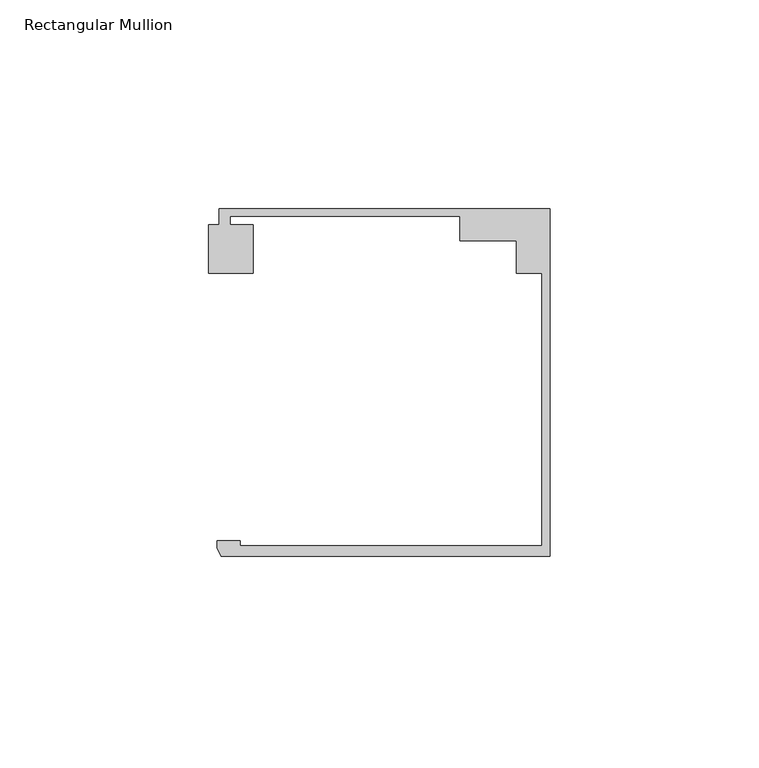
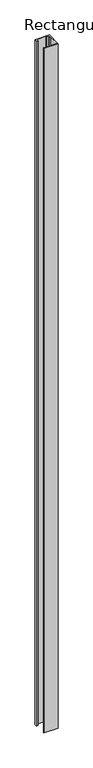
"""IFC4 building model written with IfcOpenShell, lengths in millimetres: member geometry, Rectangular Mullion : Danpal_Airpt_End-Mullion_B2."""

from ifc_helpers import new_model, si_unit, frame, origin, place, context, project, spatial, polyline, outline, extrude, source, transform, mapped, element, save


def rectangular_mullion_cee80cdc(model_context):
    return source(origin(), model_context, "Body", "SweptSolid", [
        extrude(outline(polyline([(-2.0000001, -74.9940824), (-2.0000001, -9.7188964), (-8.1, -9.7188964), (-8.1, -1.8818054), (-21.5478166, -1.8818054), (-21.5478166, 4.0051512), (-76.6478166, 4.0051512), (-76.6478166, 2.0051513), (-71.1433532, 2.0051513), (-71.1433532, -9.6875514), (-81.8592324, -9.6875514), (-81.8592324, 2.0051513), (-79.3474874, 2.0051513), (-79.3474874, 5.8051514), (0.0, 5.8051514), (0.0, -77.4940825), (-78.8515009, -77.4940825), (-79.7784606, -75.5472671), (-79.7784606, -73.6940824), (-74.2474668, -73.6940824), (-74.2474668, -74.9940824), (-2.0000001, -74.9940824)])), frame((0.0, 0.0, -4000.0), z_axis=(0.0, 0.0, 1.0), x_axis=(1.0, 0.0, 0.0)), (0.0, 0.0, 1.0), 4000.0),
    ])


if __name__ == "__main__":
    model = new_model("IFC4")
    model_context = context("Model", 3, world=origin())
    ifc_project = project(units=[si_unit("LENGTHUNIT", "METRE", prefix="MILLI")], contexts=[model_context])
    site = spatial("IfcSite", under=ifc_project)
    building = spatial("IfcBuilding", under=site)
    placement = place(None, origin())
    rectangular_mullion_shape = rectangular_mullion_cee80cdc(model_context)
    element("IfcMember", 1, ObjectType="Rectangular Mullion : Danpal_Airpt_End-Mullion_B2", at=placement, inside=building, context=model_context, shape_type="MappedRepresentation", body=[
        mapped(rectangular_mullion_shape, transform((0.0, 0.0, 0.0), x_axis=(1.0, 0.0, 0.0), y_axis=(0.0, 1.0, 0.0), z_axis=(0.0, 0.0, 1.0))),
    ])
    save(model, "model.ifc")
